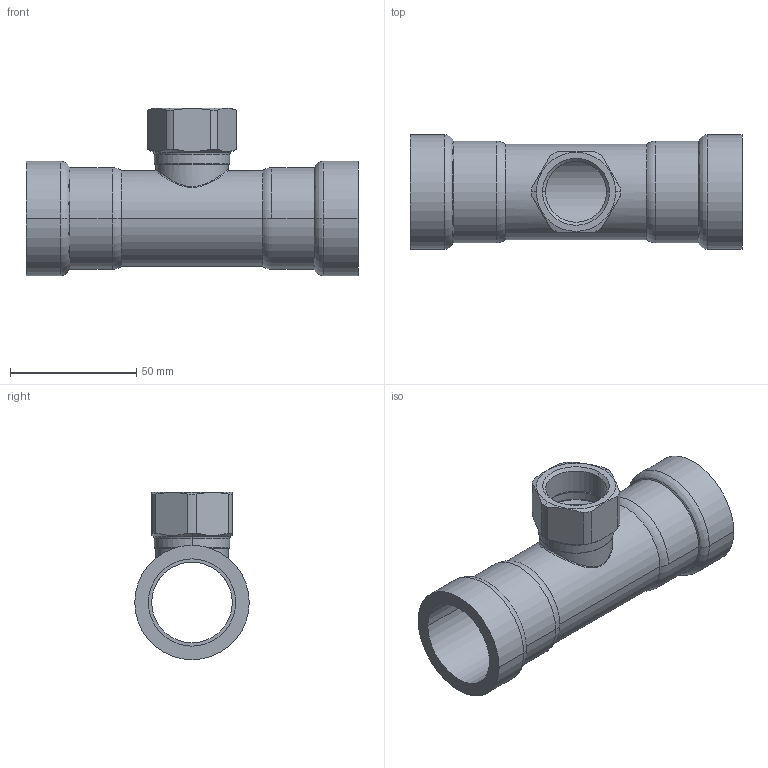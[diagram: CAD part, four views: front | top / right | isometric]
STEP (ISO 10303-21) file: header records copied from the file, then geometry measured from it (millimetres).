
FILE_DESCRIPTION(('Creo Elements/Direct Modeling STEP Export'),'2;1');
FILE_NAME('C9418_1_3-4_1.stp','2020-07-17T 8:39:35',(''),(''),'PTC Creo Elements/Direct Modeling STEP processor for AP214 (Solid Model)','PTC Creo Elements/Direct Modeling 19.0C 15-Aug-2015 (C) Parametric Technology GmbH','');
FILE_SCHEMA(('AUTOMOTIVE_DESIGN { 1 0 10303 214 1 1 1 1 }'));
Length unit declared in the file: millimetre
Products named in the file (2): C9418_1_3-4_1
Assembly tree (1 placements, depth 2):
  C9418_1_3-4_1
    C9418_1_3-4_1
Bounding box: 131.66 x 45.4 x 66.4 mm (x, y, z)
Volume: 62359.3 mm3; surface area: 37078.1 mm2
Topology: 1 solids, 1 shells, 79 faces, 182 edges, 110 vertices
Faces by surface type: cylinder 32, cone 16, torus 14, plane 13, bspline 4
Entity records: 7191 total; most frequent: CARTESIAN_POINT 5475, ORIENTED_EDGE 364, DIRECTION 332, EDGE_CURVE 182, AXIS2_PLACEMENT_3D 139, VERTEX_POINT 110, EDGE_LOOP 88, FACE_OUTER_BOUND 79
